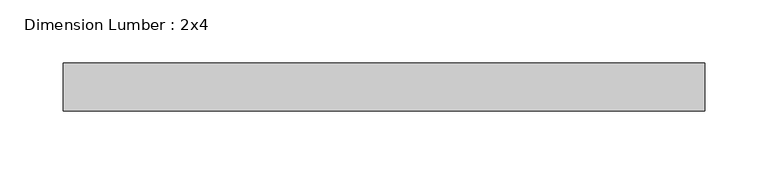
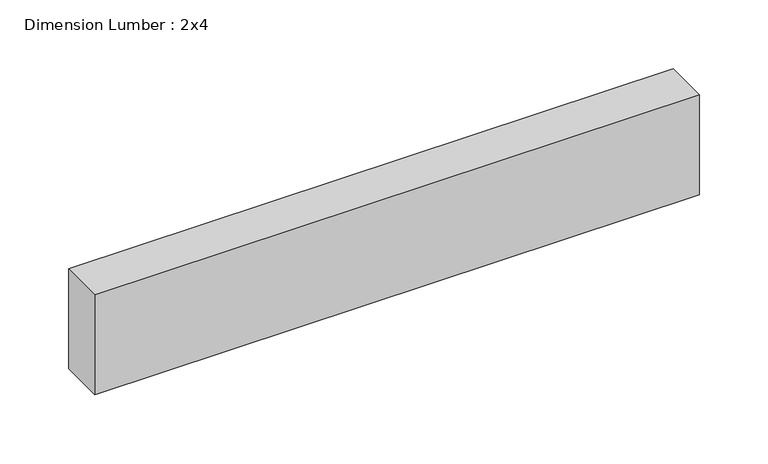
"""IFC4 building model written with IfcOpenShell, lengths in millimetres: beam geometry, Dimension Lumber : 2x4."""

from ifc_helpers import new_model, si_unit, frame, origin, place, context, project, spatial, polyline, outline, extrude, source, transform, mapped, element, save


def dimension_lumber_2x4_4d8e3e30(model_context):
    return source(origin(), model_context, "Body", "SweptSolid", [
        extrude(outline(polyline([(254.0, 19.05), (254.0, -19.05), (-254.0, -19.05), (-254.0, 19.05), (254.0, 19.05)])), frame((0.0, 0.0, -44.45), z_axis=(0.0, 0.0, 1.0), x_axis=(1.0, 0.0, 0.0)), (0.0, 0.0, 1.0), 88.9),
    ])


if __name__ == "__main__":
    model = new_model("IFC4")
    model_context = context("Model", 3, world=origin())
    ifc_project = project(units=[si_unit("LENGTHUNIT", "METRE", prefix="MILLI")], contexts=[model_context])
    site = spatial("IfcSite", under=ifc_project)
    building = spatial("IfcBuilding", under=site)
    placement = place(None, origin())
    dimension_lumber_2x4_shape = dimension_lumber_2x4_4d8e3e30(model_context)
    element("IfcBeam", 1, ObjectType="Dimension Lumber : 2x4", at=placement, inside=building, context=model_context, shape_type="MappedRepresentation", body=[
        mapped(dimension_lumber_2x4_shape, transform((0.0, 0.0, 0.0), x_axis=(1.0, 0.0, 0.0), y_axis=(0.0, 1.0, 0.0), z_axis=(0.0, 0.0, 1.0))),
    ])
    save(model, "model.ifc")
